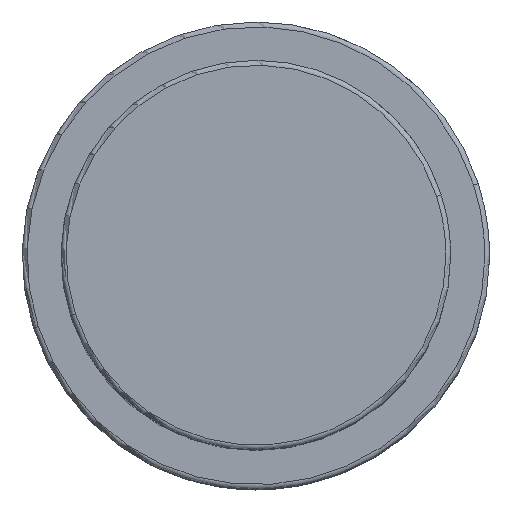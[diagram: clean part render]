
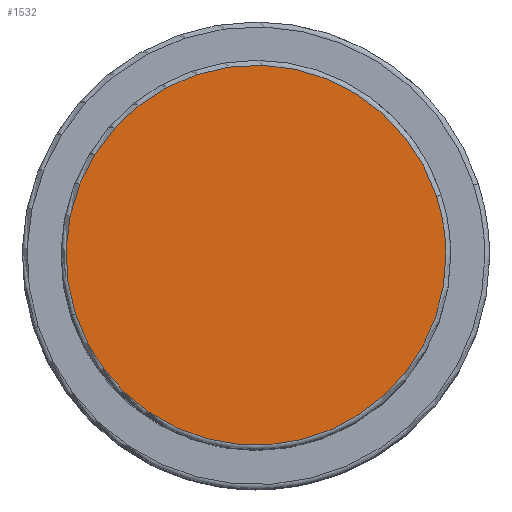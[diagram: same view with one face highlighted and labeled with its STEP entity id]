
A CAD part, top view. The second image highlights one B-rep face of the part: STEP entity #1532.
In plain terms, the highlighted planar face has unit normal (0, 0, 1).
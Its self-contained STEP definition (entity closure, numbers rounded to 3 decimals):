
#1465=CARTESIAN_POINT('',(18.546,6.026,48.5));
#1466=VERTEX_POINT('',#1465);
#1484=CARTESIAN_POINT('',(-18.546,-6.026,48.5));
#1485=VERTEX_POINT('',#1484);
#1493=CARTESIAN_POINT('',(0.0,0.0,48.5));
#1494=DIRECTION('',(0.0,0.0,1.0));
#1495=DIRECTION('',(1.0,0.0,0.0));
#1496=AXIS2_PLACEMENT_3D('',#1493,#1494,#1495);
#1497=CIRCLE('',#1496,19.5);
#1498=EDGE_CURVE('no 1757',#1466,#1485,#1497,.T.);
#1508=CARTESIAN_POINT('',(19.5,0.0,48.5));
#1509=VERTEX_POINT('',#1508);
#1510=CARTESIAN_POINT('',(0.0,0.0,48.5));
#1511=DIRECTION('',(0.0,0.0,1.0));
#1512=DIRECTION('',(1.0,0.0,0.0));
#1513=AXIS2_PLACEMENT_3D('',#1510,#1511,#1512);
#1514=CIRCLE('',#1513,19.5);
#1515=EDGE_CURVE('no 1766',#1509,#1466,#1514,.T.);
#1516=ORIENTED_EDGE('',*,*,#1515,.T.);
#1517=ORIENTED_EDGE('',*,*,#1498,.T.);
#1518=CARTESIAN_POINT('',(0.0,0.0,48.5));
#1519=DIRECTION('',(0.0,0.0,1.0));
#1520=DIRECTION('',(1.0,0.0,0.0));
#1521=AXIS2_PLACEMENT_3D('',#1518,#1519,#1520);
#1522=CIRCLE('',#1521,19.5);
#1523=EDGE_CURVE('no 1772',#1485,#1509,#1522,.T.);
#1524=ORIENTED_EDGE('',*,*,#1523,.T.);
#1525=EDGE_LOOP('',(#1516,#1517,#1524));
#1526=FACE_OUTER_BOUND('',#1525,.T.);
#1527=CARTESIAN_POINT('',(0.0,0.0,48.5));
#1528=DIRECTION('',(0.0,0.0,1.0));
#1529=DIRECTION('',(1.0,0.0,0.0));
#1530=AXIS2_PLACEMENT_3D('',#1527,#1528,#1529);
#1531=PLANE('',#1530);
#1532=ADVANCED_FACE('no 1759',(#1526),#1531,.T.);
